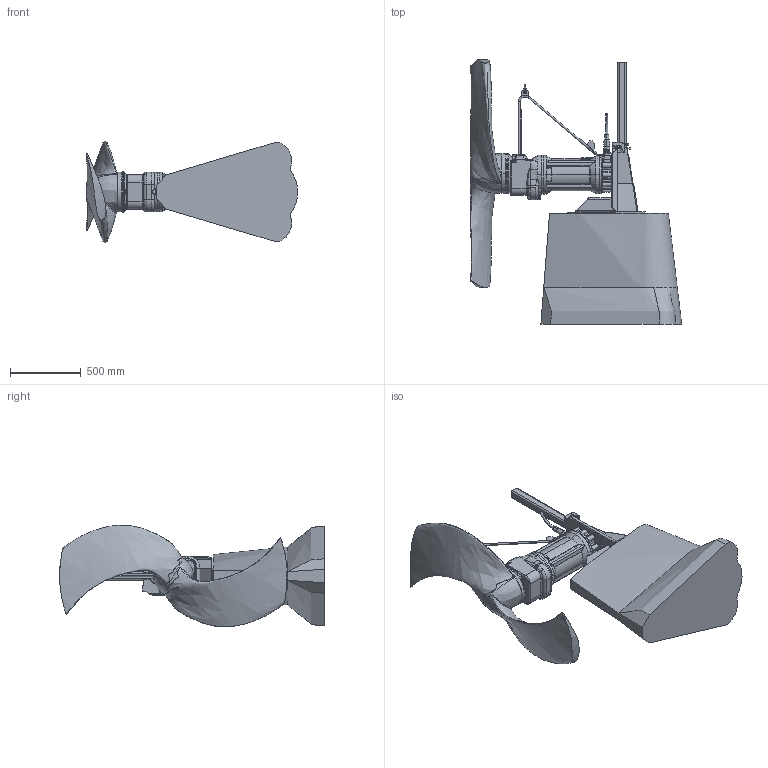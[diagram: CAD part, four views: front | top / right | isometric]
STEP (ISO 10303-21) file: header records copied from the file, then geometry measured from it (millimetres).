
FILE_DESCRIPTION (( 'STEP AP214' ), '1' );
FILE_NAME ('XSB1600 CP 780.STEP', '2013-04-15T09:05:41', ( 'HP' ), ( '' ), 'SwSTEP 2.0', 'SolidWorks 2011', '' );
FILE_SCHEMA (( 'AUTOMOTIVE_DESIGN' ));
Products named in the file (1): XSB1600 CP 780
Bounding box: 1490.03 x 1865.57 x 716.04 mm (x, y, z)
Volume: 306372588.9 mm3; surface area: 5757505.6 mm2
Topology: 1 solids, 1 shells, 1730 faces, 4311 edges, 2531 vertices
Faces by surface type: bspline 510, plane 441, cylinder 378, torus 259, cone 76, sphere 66
Entity records: 422383 total; most frequent: CARTESIAN_POINT 384976, ORIENTED_EDGE 8460, DIRECTION 7151, EDGE_CURVE 4230, AXIS2_PLACEMENT_3D 2865, VERTEX_POINT 2526, EDGE_LOOP 1790, FACE_OUTER_BOUND 1730
